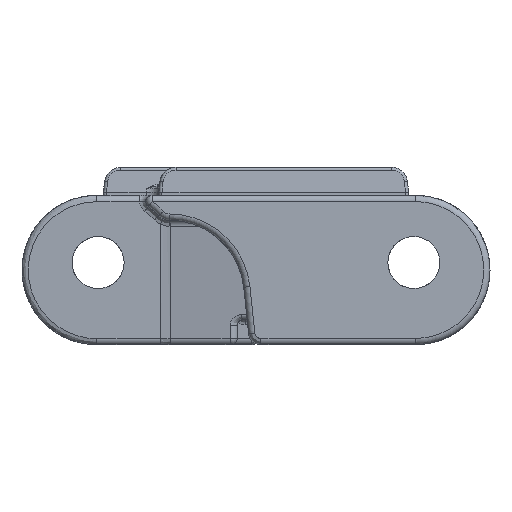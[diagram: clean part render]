
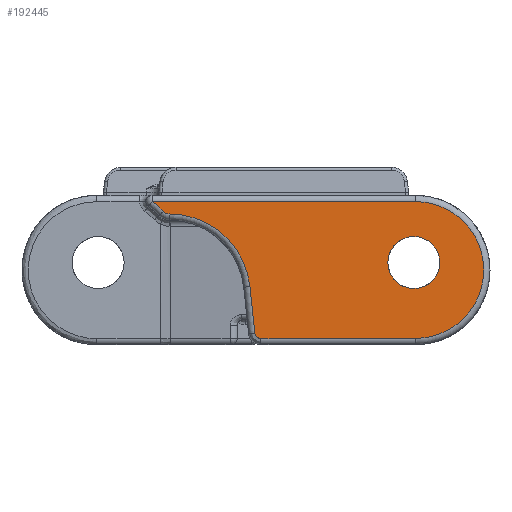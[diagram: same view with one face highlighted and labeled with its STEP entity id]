
A CAD part, left-side view. The second image highlights one B-rep face of the part: STEP entity #192445.
In plain terms, the highlighted planar face has unit normal (-1, 0, 0).
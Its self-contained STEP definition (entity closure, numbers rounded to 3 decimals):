
#67660=CARTESIAN_POINT('',(-298.25,-25.575,12.));
#67661=DIRECTION('',(-1.,0.,0.));
#67662=DIRECTION('',(0.,0.,-1.));
#67663=AXIS2_PLACEMENT_3D('',#67660,#67661,#67662);
#67668=DIRECTION('',(0.,-1.,0.));
#67669=VECTOR('',#67668,24.774);
#67670=CARTESIAN_POINT('',(-298.25,-0.801,1.));
#67671=LINE('',#67670,#67669);
#67675=CARTESIAN_POINT('',(-298.25,-0.801,2.));
#67676=DIRECTION('',(-1.,0.,0.));
#67677=DIRECTION('',(0.,0.995,-0.105));
#67678=AXIS2_PLACEMENT_3D('',#67675,#67676,#67677);
#67683=DIRECTION('',(0.,-0.105,-0.995));
#67684=VECTOR('',#67683,7.476);
#67685=CARTESIAN_POINT('',(-298.25,0.975,9.33));
#67686=LINE('',#67685,#67684);
#67690=CARTESIAN_POINT('',(-298.25,13.935,7.968));
#67691=DIRECTION('',(1.,0.,0.));
#67692=DIRECTION('',(0.,0.,1.));
#67693=AXIS2_PLACEMENT_3D('',#67690,#67691,#67692);
#67698=CARTESIAN_POINT('',(-298.25,13.935,22.268));
#67699=DIRECTION('',(-1.,0.,0.));
#67700=DIRECTION('',(0.,0.73,-0.683));
#67701=AXIS2_PLACEMENT_3D('',#67698,#67699,#67700);
#67706=CARTESIAN_POINT('',(-298.25,23.621,13.2));
#67707=DIRECTION('',(1.,0.,0.));
#67708=DIRECTION('',(0.,-0.577,0.817));
#67709=AXIS2_PLACEMENT_3D('',#67706,#67707,#67708);
#67714=DIRECTION('',(0.,1.,0.));
#67715=VECTOR('',#67714,42.271);
#67716=CARTESIAN_POINT('',(-298.25,-25.575,23.));
#67717=LINE('',#67716,#67715);
#67721=CARTESIAN_POINT('',(-298.25,-25.35,13.2));
#67722=DIRECTION('',(1.,0.,0.));
#67723=DIRECTION('',(0.,1.,0.));
#67724=AXIS2_PLACEMENT_3D('',#67721,#67722,#67723);
#67729=CARTESIAN_POINT('',(-298.25,-25.35,13.2));
#67730=DIRECTION('',(1.,0.,0.));
#67731=DIRECTION('',(0.,-1.,0.));
#67732=AXIS2_PLACEMENT_3D('',#67729,#67730,#67731);
#99757=CARTESIAN_POINT('',(-298.25,-21.175,13.2));
#99759=VERTEX_POINT('',#99757);
#99789=CARTESIAN_POINT('',(-298.25,-29.525,13.2));
#99791=VERTEX_POINT('',#99789);
#102984=CARTESIAN_POINT('',(-298.25,-25.575,1.));
#102985=CARTESIAN_POINT('',(-298.25,-25.575,23.));
#102986=VERTEX_POINT('',#102984);
#102987=VERTEX_POINT('',#102985);
#102992=CARTESIAN_POINT('',(-298.25,16.696,23.));
#102993=VERTEX_POINT('',#102992);
#102998=CARTESIAN_POINT('',(-298.25,14.861,21.401));
#102999=VERTEX_POINT('',#102998);
#103002=CARTESIAN_POINT('',(-298.25,13.935,21.));
#103003=VERTEX_POINT('',#103002);
#103006=CARTESIAN_POINT('',(-298.25,0.975,9.33));
#103007=VERTEX_POINT('',#103006);
#103010=CARTESIAN_POINT('',(-298.25,0.194,1.895));
#103011=VERTEX_POINT('',#103010);
#103014=CARTESIAN_POINT('',(-298.25,-0.801,1.));
#103015=VERTEX_POINT('',#103014);
#192419=CARTESIAN_POINT('',(-298.25,0.,-2.502));
#192420=DIRECTION('',(-1.,0.,0.));
#192421=DIRECTION('',(0.,1.,0.));
#192422=AXIS2_PLACEMENT_3D('',#192419,#192420,#192421);
#192423=PLANE('',#192422);
#192425=ORIENTED_EDGE('',*,*,#192424,.F.);
#192427=ORIENTED_EDGE('',*,*,#192426,.F.);
#192429=ORIENTED_EDGE('',*,*,#192428,.F.);
#192431=ORIENTED_EDGE('',*,*,#192430,.F.);
#192433=ORIENTED_EDGE('',*,*,#192432,.F.);
#192435=ORIENTED_EDGE('',*,*,#192434,.F.);
#192437=ORIENTED_EDGE('',*,*,#192436,.F.);
#192438=ORIENTED_EDGE('',*,*,#192410,.F.);
#192439=EDGE_LOOP('',(#192425,#192427,#192429,#192431,#192433,#192435,#192437,
#192438));
#192440=FACE_OUTER_BOUND('',#192439,.F.);
#192441=ORIENTED_EDGE('',*,*,#144155,.F.);
#192442=ORIENTED_EDGE('',*,*,#150435,.F.);
#192443=EDGE_LOOP('',(#192441,#192442));
#192444=FACE_BOUND('',#192443,.F.);
#67664=CIRCLE('',#67663,11.);
#67679=CIRCLE('',#67678,1.);
#67694=CIRCLE('',#67693,13.032);
#67702=CIRCLE('',#67701,1.268);
#67710=CIRCLE('',#67709,12.);
#67725=CIRCLE('',#67724,4.175);
#67733=CIRCLE('',#67732,4.175);
#144155=EDGE_CURVE('',#99759,#99791,#67725,.T.);
#150435=EDGE_CURVE('',#99791,#99759,#67733,.T.);
#192410=EDGE_CURVE('',#102987,#102993,#67717,.T.);
#192424=EDGE_CURVE('',#102986,#102987,#67664,.T.);
#192426=EDGE_CURVE('',#103015,#102986,#67671,.T.);
#192428=EDGE_CURVE('',#103011,#103015,#67679,.T.);
#192430=EDGE_CURVE('',#103007,#103011,#67686,.T.);
#192432=EDGE_CURVE('',#103003,#103007,#67694,.T.);
#192434=EDGE_CURVE('',#102999,#103003,#67702,.T.);
#192436=EDGE_CURVE('',#102993,#102999,#67710,.T.);
#192445=ADVANCED_FACE('',(#192440,#192444),#192423,.T.);
